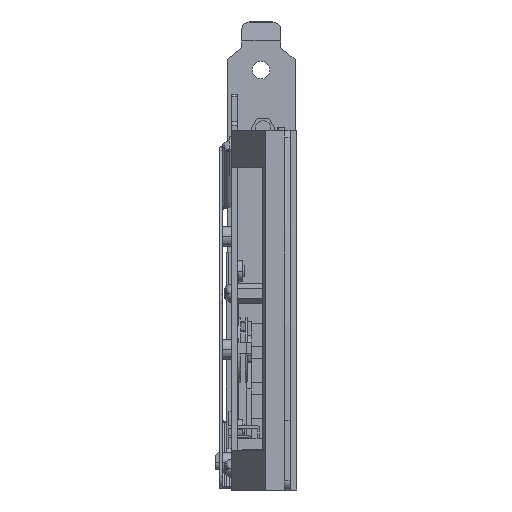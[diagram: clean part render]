
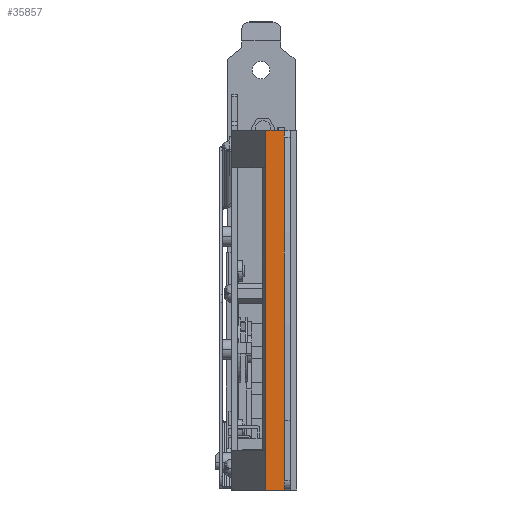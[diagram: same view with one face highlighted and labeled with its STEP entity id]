
A CAD part, front view. The second image highlights one B-rep face of the part: STEP entity #35857.
In plain terms, the highlighted planar face has unit normal (0, -1, 0).
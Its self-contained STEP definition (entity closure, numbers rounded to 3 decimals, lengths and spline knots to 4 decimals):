
#2830=DIRECTION('',(1.,0.,0.));
#2831=VECTOR('',#2830,0.198);
#2832=CARTESIAN_POINT('',(-0.311,-12.949,3.575));
#2833=LINE('',#2832,#2831);
#2923=DIRECTION('',(1.,0.,0.));
#2924=VECTOR('',#2923,0.198);
#2925=CARTESIAN_POINT('',(-0.311,-12.949,-0.25));
#2926=LINE('',#2925,#2924);
#2999=DIRECTION('',(0.,0.,1.));
#3000=VECTOR('',#2999,3.825);
#3001=CARTESIAN_POINT('',(-0.311,-12.949,-0.25));
#3002=LINE('',#3001,#3000);
#3018=DIRECTION('',(0.,0.,1.));
#3019=VECTOR('',#3018,3.825);
#3020=CARTESIAN_POINT('',(-0.113,-12.949,-0.25));
#3021=LINE('',#3020,#3019);
#33594=CARTESIAN_POINT('',(-0.311,-12.949,-0.25));
#33595=VERTEX_POINT('',#33594);
#33596=CARTESIAN_POINT('',(-0.113,-12.949,-0.25));
#33597=VERTEX_POINT('',#33596);
#33614=CARTESIAN_POINT('',(-0.311,-12.949,3.575));
#33615=VERTEX_POINT('',#33614);
#33616=CARTESIAN_POINT('',(-0.113,-12.949,3.575));
#33617=VERTEX_POINT('',#33616);
#35845=CARTESIAN_POINT('',(-0.311,-12.949,-0.25));
#35846=DIRECTION('',(0.,-1.,0.));
#35847=DIRECTION('',(1.,0.,0.));
#35848=AXIS2_PLACEMENT_3D('',#35845,#35846,#35847);
#35849=PLANE('',#35848);
#35850=ORIENTED_EDGE('',*,*,#35778,.F.);
#35851=ORIENTED_EDGE('',*,*,#35823,.T.);
#35852=ORIENTED_EDGE('',*,*,#35572,.T.);
#35854=ORIENTED_EDGE('',*,*,#35853,.F.);
#35855=EDGE_LOOP('',(#35850,#35851,#35852,#35854));
#35856=FACE_OUTER_BOUND('',#35855,.F.);
#35857=ADVANCED_FACE('',(#35856),#35849,.T.);
#35572=EDGE_CURVE('',#33615,#33617,#2833,.T.);
#35778=EDGE_CURVE('',#33595,#33597,#2926,.T.);
#35823=EDGE_CURVE('',#33595,#33615,#3002,.T.);
#35853=EDGE_CURVE('',#33597,#33617,#3021,.T.);
